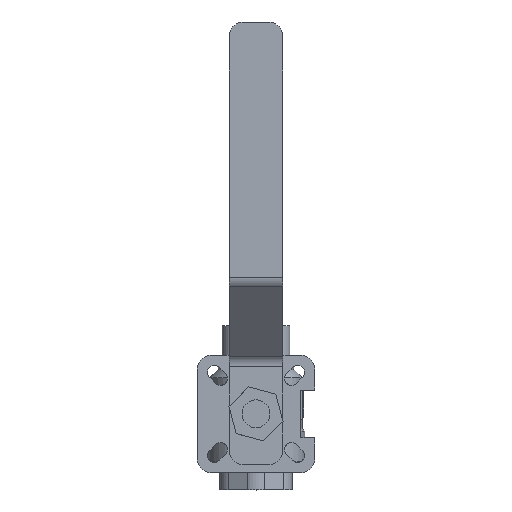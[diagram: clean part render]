
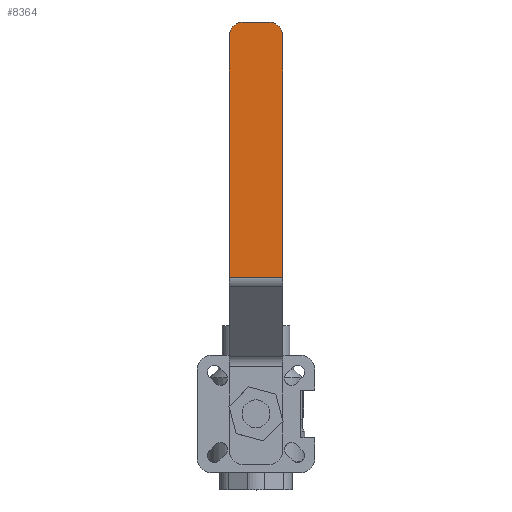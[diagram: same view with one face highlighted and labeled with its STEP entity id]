
A CAD part, top view. The second image highlights one B-rep face of the part: STEP entity #8364.
In plain terms, the highlighted planar face has unit normal (0, 0, 1).
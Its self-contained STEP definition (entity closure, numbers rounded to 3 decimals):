
#8364=ADVANCED_FACE('',(#15061),#15063,.T.);
#15061=FACE_BOUND('',#15062,.T.);
#15062=EDGE_LOOP('',(#20628,#20629,#20630,#20631,#20632,#20633));
#15063=PLANE('',#15064);
#15064=AXIS2_PLACEMENT_3D('',#15065,#15066,#15067);
#15065=CARTESIAN_POINT('',(2547.378,2150.095,68.004));
#15066=DIRECTION('',(0.,0.,1.));
#15067=DIRECTION('',(0.,-1.,0.));
#20628=ORIENTED_EDGE('',*,*,#23459,.F.);
#20629=ORIENTED_EDGE('',*,*,#23464,.F.);
#20630=ORIENTED_EDGE('',*,*,#23465,.T.);
#20631=ORIENTED_EDGE('',*,*,#23453,.F.);
#20632=ORIENTED_EDGE('',*,*,#23466,.F.);
#20633=ORIENTED_EDGE('',*,*,#23461,.T.);
#23453=EDGE_CURVE('',#28010,#28012,#28013,.T.);
#23459=EDGE_CURVE('',#28022,#28024,#28025,.T.);
#23461=EDGE_CURVE('',#28027,#28024,#28028,.T.);
#23464=EDGE_CURVE('',#28032,#28022,#28033,.T.);
#23465=EDGE_CURVE('',#28032,#28012,#28034,.T.);
#23466=EDGE_CURVE('',#28027,#28010,#28035,.T.);
#28010=VERTEX_POINT('',#38709);
#28012=VERTEX_POINT('',#38713);
#28013=LINE('',#38714,#38715);
#28022=VERTEX_POINT('',#38736);
#28024=VERTEX_POINT('',#38740);
#28025=CIRCLE('',#38741,5.);
#28027=VERTEX_POINT('',#38748);
#28028=LINE('',#38749,#38750);
#28032=VERTEX_POINT('',#38759);
#28033=LINE('',#38760,#38761);
#28034=LINE('',#38763,#38764);
#28035=CIRCLE('',#38766,5.);
#38709=CARTESIAN_POINT('',(2566.378,2135.202,68.004));
#38713=CARTESIAN_POINT('',(2566.378,2049.059,68.004));
#38714=CARTESIAN_POINT('',(2566.378,2135.202,68.004));
#38715=VECTOR('',#38716,1.);
#38716=DIRECTION('',(0.,-1.,0.));
#38736=CARTESIAN_POINT('',(2547.378,2135.202,68.004));
#38740=CARTESIAN_POINT('',(2552.378,2140.202,68.004));
#38741=AXIS2_PLACEMENT_3D('',#38742,#38743,#38744);
#38742=CARTESIAN_POINT('',(2552.378,2135.202,68.004));
#38743=DIRECTION('',(0.,0.,-1.));
#38744=DIRECTION('',(-1.,0.,0.));
#38748=CARTESIAN_POINT('',(2561.378,2140.202,68.004));
#38749=CARTESIAN_POINT('',(2561.378,2140.202,68.004));
#38750=VECTOR('',#38751,1.);
#38751=DIRECTION('',(-1.,0.,0.));
#38759=CARTESIAN_POINT('',(2547.378,2049.059,68.004));
#38760=CARTESIAN_POINT('',(2547.378,2049.059,68.004));
#38761=VECTOR('',#38762,1.);
#38762=DIRECTION('',(0.,1.,0.));
#38763=CARTESIAN_POINT('',(2547.378,2049.059,68.004));
#38764=VECTOR('',#38765,1.);
#38765=DIRECTION('',(1.,0.,0.));
#38766=AXIS2_PLACEMENT_3D('',#38767,#38768,#38769);
#38767=CARTESIAN_POINT('',(2561.378,2135.202,68.004));
#38768=DIRECTION('',(0.,0.,-1.));
#38769=DIRECTION('',(0.,1.,0.));
